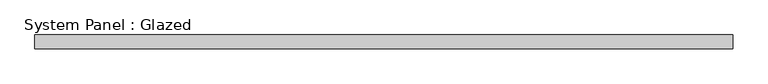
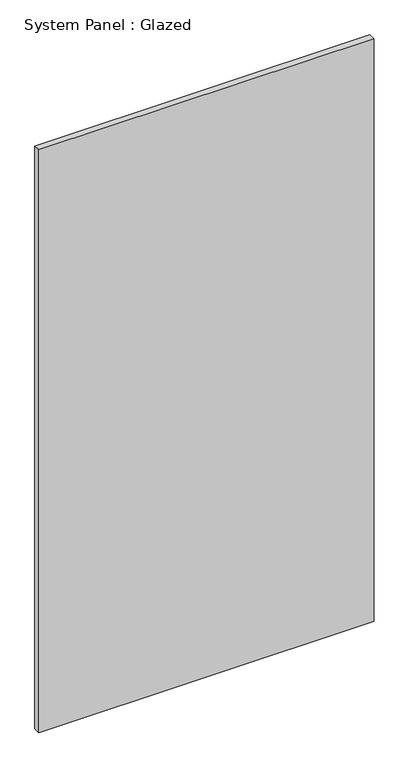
"""IFC4 building model written with IfcOpenShell, lengths in millimetres: plate geometry, System Panel : Glazed."""

from ifc_helpers import new_model, si_unit, origin, origin_with_axes, place, context, project, spatial, polyline, outline, extrude, source, transform, mapped, element, save


def system_panel_glazed_098692fd(model_context):
    return source(origin(), model_context, "Body", "SweptSolid", [
        extrude(outline(polyline([(639.1601177, -49.5), (-639.1601177, -49.5), (-639.1601177, -24.5), (639.1601177, -24.5), (639.1601177, -49.5)])), origin_with_axes(), (0.0, 0.0, 1.0), 2350.0),
    ])


if __name__ == "__main__":
    model = new_model("IFC4")
    model_context = context("Model", 3, world=origin())
    ifc_project = project(units=[si_unit("LENGTHUNIT", "METRE", prefix="MILLI")], contexts=[model_context])
    site = spatial("IfcSite", under=ifc_project)
    building = spatial("IfcBuilding", under=site)
    placement = place(None, origin())
    system_panel_glazed_shape = system_panel_glazed_098692fd(model_context)
    element("IfcPlate", 1, ObjectType="System Panel : Glazed", at=placement, inside=building, context=model_context, shape_type="MappedRepresentation", body=[
        mapped(system_panel_glazed_shape, transform((0.0, 0.0, 0.0), x_axis=(1.0, 0.0, 0.0), y_axis=(0.0, 1.0, 0.0), z_axis=(0.0, 0.0, 1.0))),
    ])
    save(model, "model.ifc")
